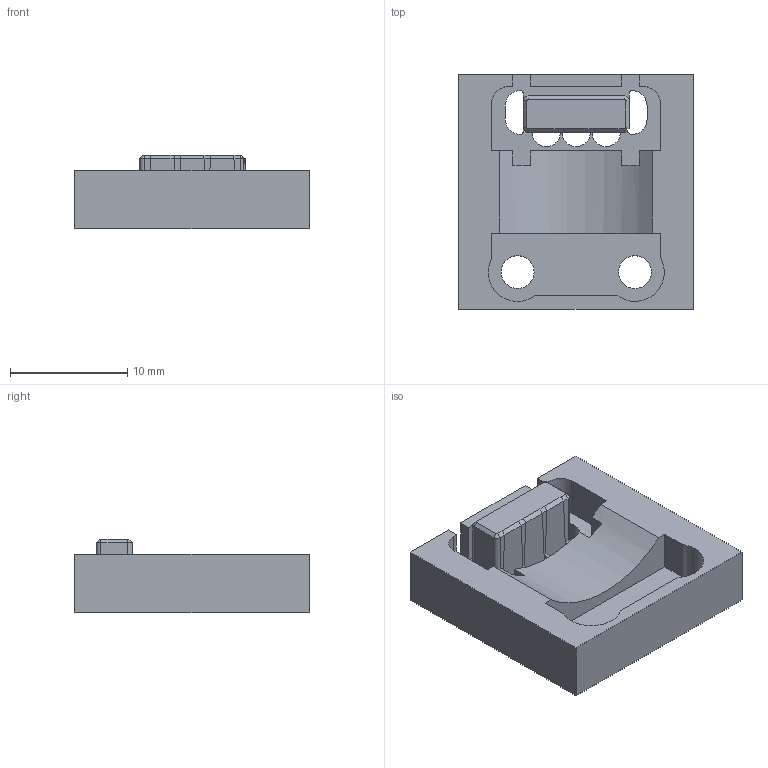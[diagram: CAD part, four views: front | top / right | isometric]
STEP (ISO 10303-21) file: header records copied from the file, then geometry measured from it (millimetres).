
FILE_DESCRIPTION(('Open CASCADE Model'),'2;1');
FILE_NAME('Open CASCADE Shape Model','2026-05-31T19:44:09',('Author'),( 'Open CASCADE'),'Open CASCADE STEP processor 7.6','Open CASCADE 7.6' ,'Unknown');
FILE_SCHEMA(('AP242_MANAGED_MODEL_BASED_3D_ENGINEERING_MIM_LF. {1 0 10303 442 1 1 4 }'));
Length unit declared in the file: millimetre
Products named in the file (1): Open CASCADE STEP translator 7.6 3
Bounding box: 20 x 20 x 6.3 mm (x, y, z)
Volume: 1380.1 mm3; surface area: 1569.5 mm2
Topology: 1 solids, 1 shells, 82 faces, 233 edges, 149 vertices
Faces by surface type: plane 55, cylinder 19, cone 4, bspline 4
Full cylindrical faces by diameter (mm): 2.8 x2
Entity records: 6225 total; most frequent: CARTESIAN_POINT 1600, DIRECTION 847, LINE 576, VECTOR 576, ORIENTED_EDGE 466, PCURVE 466, DEFINITIONAL_REPRESENTATION 466, EDGE_CURVE 233
